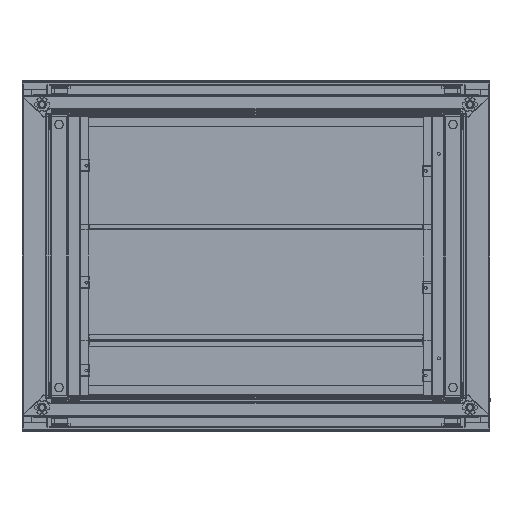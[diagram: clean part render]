
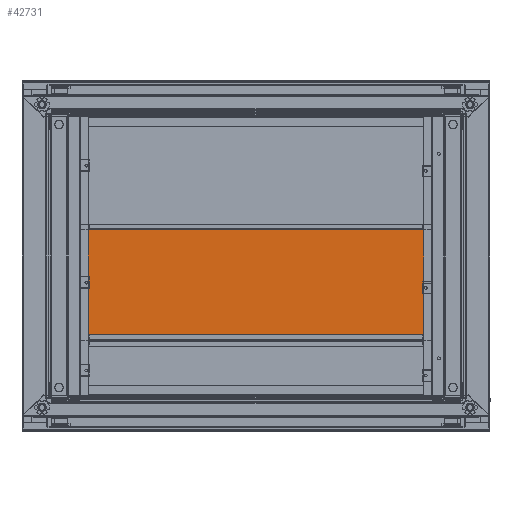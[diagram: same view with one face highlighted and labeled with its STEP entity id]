
A CAD part, front view. The second image highlights one B-rep face of the part: STEP entity #42731.
In plain terms, the highlighted planar face has unit normal (0, -1, 0) as drawn and (0, 1, 0) by its records, which use the part's own axes.
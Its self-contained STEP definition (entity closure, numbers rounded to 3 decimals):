
#42366=CARTESIAN_POINT(' ',(300.,0.,-99.));
#42371=DIRECTION(' ',(-1.,0.,0.));
#42376=VECTOR(' ',#42371,1.);
#42381=LINE('',#42366,#42376);
#42386=CARTESIAN_POINT(' ',(300.,0.,-99.));
#42387=VERTEX_POINT(' ',#42386);
#42391=CARTESIAN_POINT(' ',(-300.,0.,-99.));
#42392=VERTEX_POINT(' ',#42391);
#42396=EDGE_CURVE(' ',#42387,#42392,#42381,.T.);
#42521=DIRECTION(' ',(0.,1.,0.));
#42526=CARTESIAN_POINT(' ',(-300.,0.,-99.));
#42531=DIRECTION(' ',(0.,-0.,1.));
#42536=AXIS2_PLACEMENT_3D(' ',#42526,#42521,#42531);
#42541=PLANE('NONE',#42536);
#42546=CARTESIAN_POINT(' ',(285.,0.,99.));
#42551=DIRECTION(' ',(1.,0.,0.));
#42556=VECTOR(' ',#42551,1.);
#42561=LINE('',#42546,#42556);
#42566=CARTESIAN_POINT(' ',(285.,0.,99.));
#42567=VERTEX_POINT(' ',#42566);
#42571=CARTESIAN_POINT(' ',(300.,0.,99.));
#42572=VERTEX_POINT(' ',#42571);
#42576=EDGE_CURVE(' ',#42567,#42572,#42561,.T.);
#42581=ORIENTED_EDGE(' ',*,*,#42576,.T.);
#42586=CARTESIAN_POINT(' ',(300.,0.,99.));
#42591=DIRECTION(' ',(0.,0.,-1.));
#42596=VECTOR(' ',#42591,1.);
#42601=LINE('',#42586,#42596);
#42606=EDGE_CURVE(' ',#42572,#42387,#42601,.T.);
#42611=ORIENTED_EDGE(' ',*,*,#42606,.T.);
#42616=ORIENTED_EDGE(' ',*,*,#42396,.T.);
#42621=CARTESIAN_POINT(' ',(-300.,0.,-99.));
#42626=DIRECTION(' ',(0.,0.,1.));
#42631=VECTOR(' ',#42626,1.);
#42636=LINE('',#42621,#42631);
#42641=CARTESIAN_POINT(' ',(-300.,0.,99.));
#42642=VERTEX_POINT(' ',#42641);
#42646=EDGE_CURVE(' ',#42392,#42642,#42636,.T.);
#42651=ORIENTED_EDGE(' ',*,*,#42646,.T.);
#42656=CARTESIAN_POINT(' ',(-300.,0.,99.));
#42661=DIRECTION(' ',(1.,0.,0.));
#42666=VECTOR(' ',#42661,1.);
#42671=LINE('',#42656,#42666);
#42676=CARTESIAN_POINT(' ',(-285.,0.,99.));
#42677=VERTEX_POINT(' ',#42676);
#42681=EDGE_CURVE(' ',#42642,#42677,#42671,.T.);
#42686=ORIENTED_EDGE(' ',*,*,#42681,.T.);
#42691=CARTESIAN_POINT(' ',(-285.,0.,99.));
#42696=DIRECTION(' ',(1.,0.,0.));
#42701=VECTOR(' ',#42696,1.);
#42706=LINE('',#42691,#42701);
#42711=EDGE_CURVE(' ',#42677,#42567,#42706,.T.);
#42716=ORIENTED_EDGE(' ',*,*,#42711,.T.);
#42721=EDGE_LOOP(' ',(#42581,#42611,#42616,#42651,#42686,#42716));
#42726=FACE_OUTER_BOUND(' ',#42721,.T.);
#42731=ADVANCED_FACE('NONE',(#42726),#42541,.T.);
